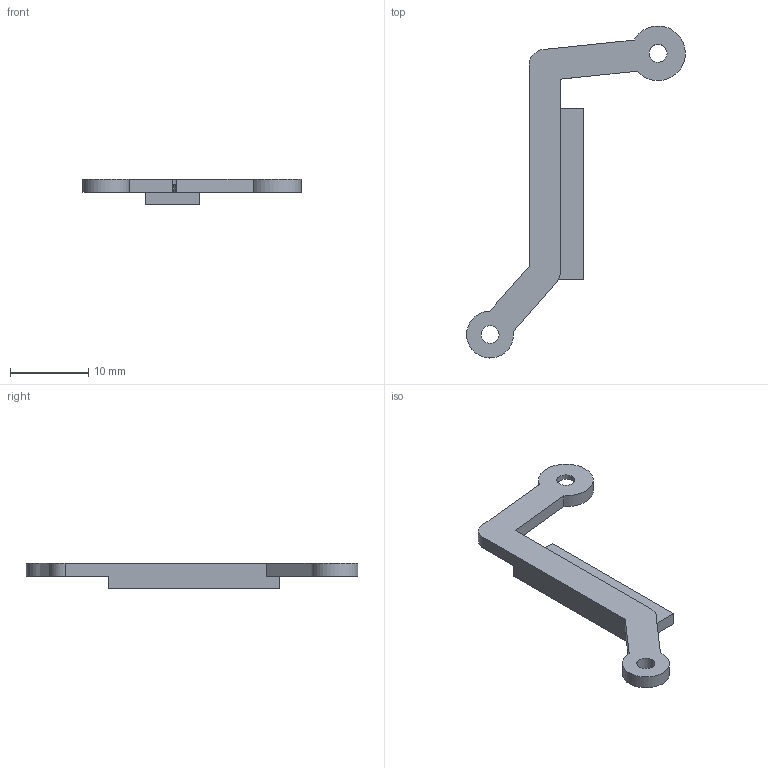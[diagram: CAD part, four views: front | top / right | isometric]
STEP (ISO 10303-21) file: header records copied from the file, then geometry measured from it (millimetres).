
FILE_DESCRIPTION(('FreeCAD Model'),'2;1');
FILE_NAME('Open CASCADE Shape Model','2026-11-13T18:42:40',('FreeCAD'),( 'FreeCAD'),'Open CASCADE STEP processor 7.8','FreeCAD','Unknown');
FILE_SCHEMA(('AUTOMOTIVE_DESIGN { 1 0 10303 214 1 1 1 1 }'));
Length unit declared in the file: millimetre
Products named in the file (1): Open CASCADE STEP translator 7.8 11
Bounding box: 28 x 42.5 x 3.3 mm (x, y, z)
Volume: 557.7 mm3; surface area: 1065.9 mm2
Topology: 1 solids, 1 shells, 31 faces, 91 edges, 62 vertices
Faces by surface type: plane 22, cylinder 9
Full cylindrical faces by diameter (mm): 2.3 x2
Entity records: 1060 total; most frequent: CARTESIAN_POINT 185, ORIENTED_EDGE 182, DIRECTION 180, EDGE_CURVE 91, LINE 66, VECTOR 66, VERTEX_POINT 62, AXIS2_PLACEMENT_3D 57
